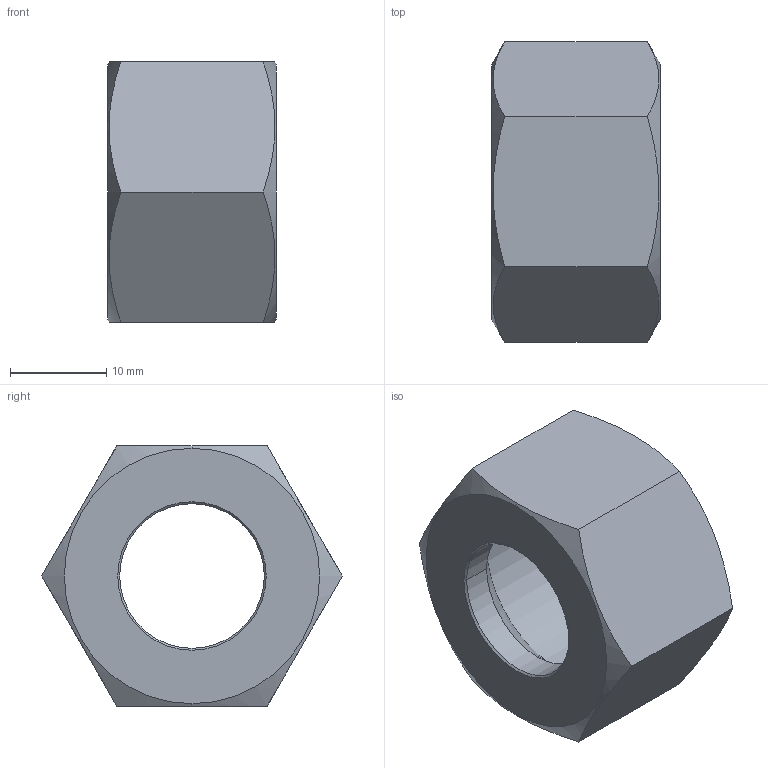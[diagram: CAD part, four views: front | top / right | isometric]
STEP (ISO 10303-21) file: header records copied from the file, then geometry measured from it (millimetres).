
FILE_DESCRIPTION((''),'2;1');
FILE_NAME('100208.stp','2006-03-06T15:11:26',('Dario Falcomer'),('CAST S.p.A.'),'AutoCAD STEP 2000i','AutoCAD 2000i',', , ');
FILE_SCHEMA(('CONFIG_CONTROL_DESIGN'));
Length unit declared in the file: millimetre
Products named in the file (2): 100208.0; CHIAVE_DADI#0
Assembly tree (1 placements, depth 2):
  100208.0
    CHIAVE_DADI#0
Bounding box: 17.5 x 31.18 x 27 mm (x, y, z)
Volume: 5835.9 mm3; surface area: 3378.1 mm2
Topology: 1 solids, 1 shells, 22 faces, 52 edges, 32 vertices
Faces by surface type: cone 10, plane 8, cylinder 4
Entity records: 725 total; most frequent: CARTESIAN_POINT 140, ORIENTED_EDGE 104, DIRECTION 100, EDGE_CURVE 52, AXIS2_PLACEMENT_3D 40, VERTEX_POINT 32, EDGE_LOOP 24, FACE_OUTER_BOUND 22
